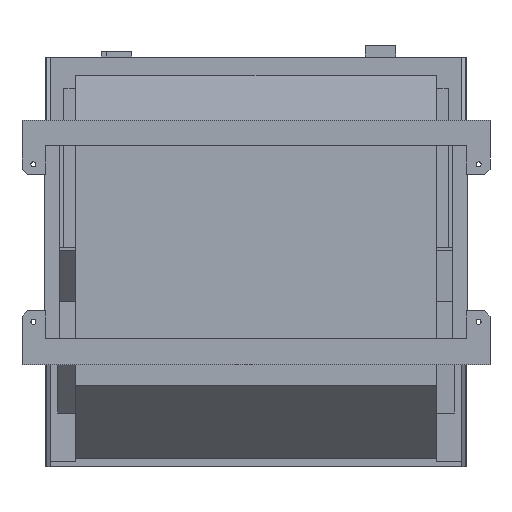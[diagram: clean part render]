
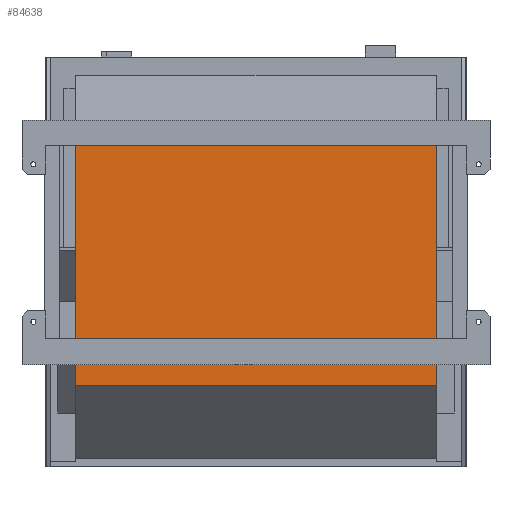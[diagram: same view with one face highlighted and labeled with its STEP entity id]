
A CAD part, front view. The second image highlights one B-rep face of the part: STEP entity #84638.
In plain terms, the highlighted planar face has unit normal (0, -1, 0).
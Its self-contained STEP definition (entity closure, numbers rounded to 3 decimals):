
#83242=DIRECTION('',(0.,0.,1.));
#83243=VECTOR('',#83242,48.249);
#83244=CARTESIAN_POINT('',(35.5,-37.28,12.846));
#83245=LINE('',#83244,#83243);
#83458=DIRECTION('',(1.,0.,0.));
#83459=VECTOR('',#83458,71.);
#83460=CARTESIAN_POINT('',(-35.5,-37.28,61.095));
#83461=LINE('',#83460,#83459);
#83462=DIRECTION('',(-1.,0.,0.));
#83463=VECTOR('',#83462,71.);
#83464=CARTESIAN_POINT('',(35.5,-37.28,12.846));
#83465=LINE('',#83464,#83463);
#83466=DIRECTION('',(0.,0.,1.));
#83467=VECTOR('',#83466,48.249);
#83468=CARTESIAN_POINT('',(-35.5,-37.28,12.846));
#83469=LINE('',#83468,#83467);
#83627=CARTESIAN_POINT('',(-35.5,-37.28,12.846));
#83629=VERTEX_POINT('',#83627);
#83630=CARTESIAN_POINT('',(35.5,-37.28,12.846));
#83631=VERTEX_POINT('',#83630);
#83642=CARTESIAN_POINT('',(-35.5,-37.28,61.095));
#83643=CARTESIAN_POINT('',(35.5,-37.28,61.095));
#83644=VERTEX_POINT('',#83642);
#83645=VERTEX_POINT('',#83643);
#84626=CARTESIAN_POINT('',(-35.5,-37.28,0.));
#84627=DIRECTION('',(0.,-1.,0.));
#84628=DIRECTION('',(1.,0.,0.));
#84629=AXIS2_PLACEMENT_3D('',#84626,#84627,#84628);
#84630=PLANE('',#84629);
#84632=ORIENTED_EDGE('',*,*,#84631,.T.);
#84633=ORIENTED_EDGE('',*,*,#84246,.F.);
#84634=ORIENTED_EDGE('',*,*,#83881,.T.);
#84635=ORIENTED_EDGE('',*,*,#83898,.T.);
#84636=EDGE_LOOP('',(#84632,#84633,#84634,#84635));
#84637=FACE_OUTER_BOUND('',#84636,.F.);
#84638=ADVANCED_FACE('',(#84637),#84630,.T.);
#83881=EDGE_CURVE('',#83631,#83629,#83465,.T.);
#83898=EDGE_CURVE('',#83629,#83644,#83469,.T.);
#84246=EDGE_CURVE('',#83631,#83645,#83245,.T.);
#84631=EDGE_CURVE('',#83644,#83645,#83461,.T.);
